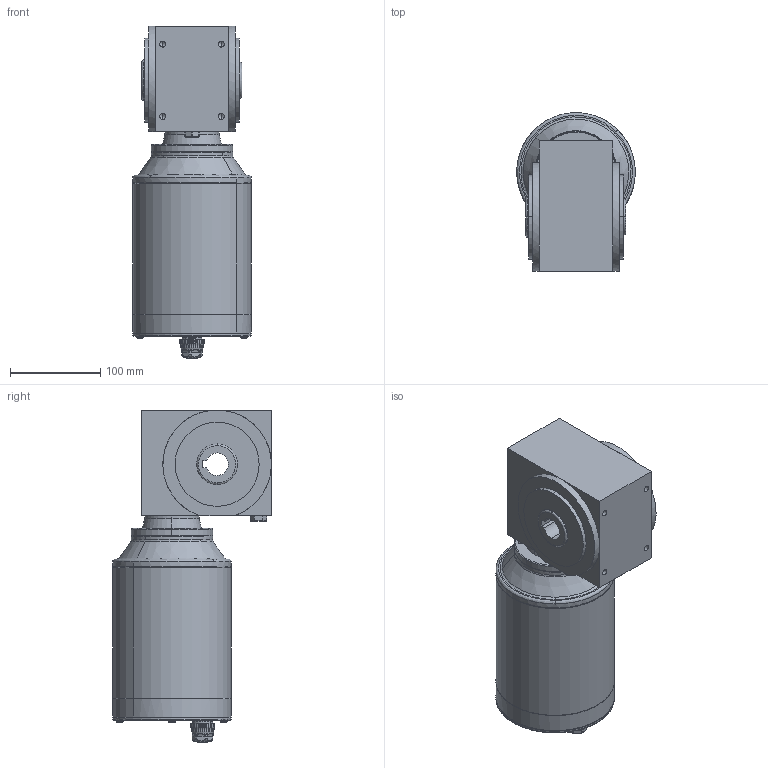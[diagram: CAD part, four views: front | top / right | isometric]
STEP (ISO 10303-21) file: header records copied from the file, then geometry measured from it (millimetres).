
FILE_DESCRIPTION (( 'STEP AP203' ), '1' );
FILE_NAME ('ESD50- K63.STEP', '2021-02-09T08:18:44', ( '' ), ( '' ), 'SwSTEP 2.0', 'SolidWorks 2012', '' );
FILE_SCHEMA (( 'CONFIG_CONTROL_DESIGN' ));
Length unit declared in the file: millimetre
Products named in the file (5): ESD50- K63; MK63_B14a; ESD050 - 63B14a; M16 -ｦｦﾎ; 63A4 B14
Assembly tree (4 placements, depth 3):
  ESD50- K63
    ESD050 - 63B14a
    MK63_B14a
      M16 -ｦｦﾎ
      63A4 B14
Bounding box: 131 x 175.5 x 367.12 mm (x, y, z)
Volume: 4220590.4 mm3; surface area: 225025.7 mm2
Topology: 4 solids, 5 shells, 389 faces, 972 edges, 590 vertices
Faces by surface type: cylinder 142, cone 94, plane 88, bspline 49, torus 16
Entity records: 14507 total; most frequent: CARTESIAN_POINT 4939, DIRECTION 2009, ORIENTED_EDGE 1852, EDGE_CURVE 926, AXIS2_PLACEMENT_3D 837, VERTEX_POINT 590, CIRCLE 489, EDGE_LOOP 446
